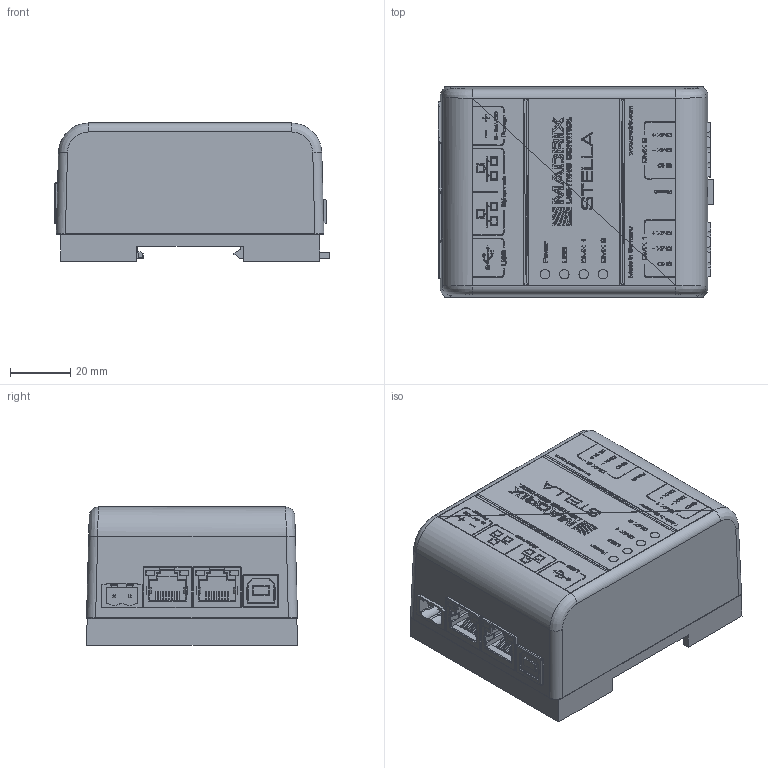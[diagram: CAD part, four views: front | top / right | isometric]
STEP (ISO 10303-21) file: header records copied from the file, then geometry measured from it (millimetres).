
FILE_DESCRIPTION(/* description */ (''),/* implementation_level */ '2;1');
FILE_NAME(/* name */ 'HTFE94~1',/* time_stamp */ '2024-09-10T14:02:41+02:00',/* author */ (''),/* organization */ (''),/* preprocessor_version */ 'ST-DEVELOPER v16.5',/* originating_system */ '',/* authorisation */ '');
FILE_SCHEMA (('AUTOMOTIVE_DESIGN'));
Products named in the file (3): Document; Stella; Print
Assembly tree (2 placements, depth 3):
  Document
    Stella
      Print
Bounding box: 91.26 x 69.98 x 45.93 mm (x, y, z)
Volume: 236240.1 mm3; surface area: 51558.4 mm2
Topology: 7 solids, 159 shells, 21809 faces, 37674 edges, 15960 vertices
Faces by surface type: plane 21497, bspline 312
Entity records: 412095 total; most frequent: CARTESIAN_POINT 121721, ORIENTED_EDGE 68068, EDGE_CURVE 37587, B_SPLINE_CURVE_WITH_KNOTS 37052, EDGE_LOOP 21841, ADVANCED_FACE 21788, FACE_OUTER_BOUND 21788, DIRECTION 21492
